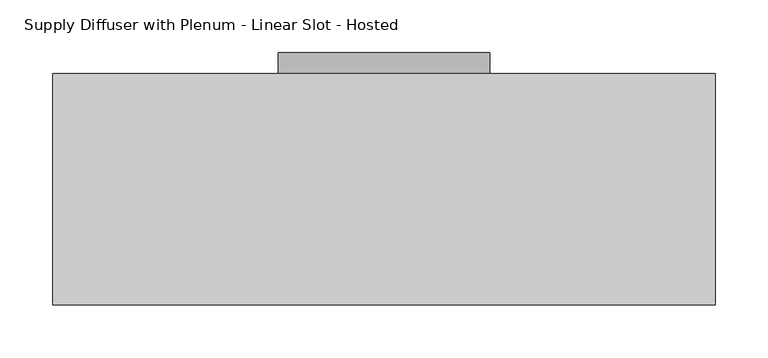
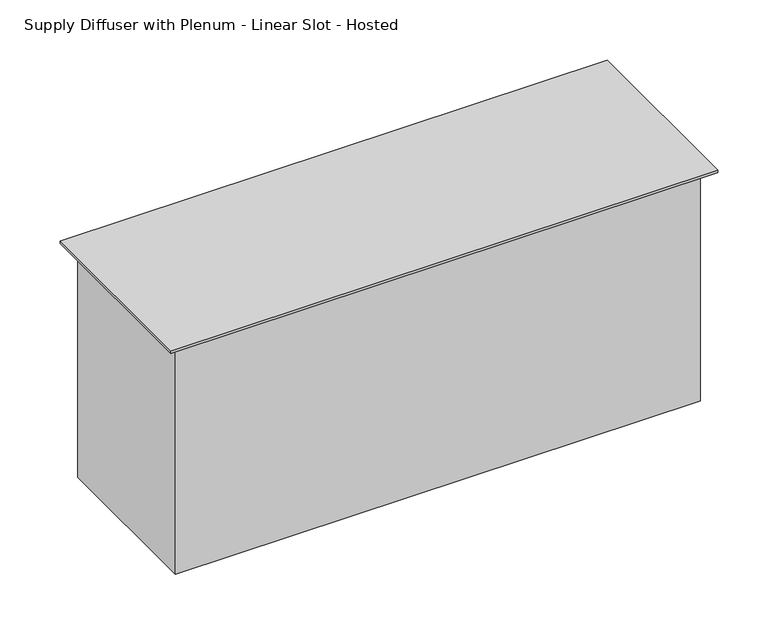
"""IFC4 building model written with IfcOpenShell, lengths in millimetres: air terminal geometry."""

import ifcopenshell
import ifcopenshell.guid

model = None  # the IFC model being written
_history = None  # IfcOwnerHistory: only IFC2X3 demands one
_inside = {}  # id of a spatial element -> (the spatial element, [elements in it])
_under = {}  # id of a project, library or spatial element -> (it, [spatial elements below it])
_declared = {}  # id of a project -> (the project, [libraries it declares])
_typed = {}  # id of a type object -> (the type object, [elements of that type])
_made_of = {}  # id of a material, layer set ... -> (it, [elements and type objects made of it])


def new_model(schema):
    """Start an empty IFC model of exactly this schema.

    Asked for "IFC4X3", IfcOpenShell would pick the latest addendum, in which some entities
    have other attributes; the version numbers below select the first issue.
    IFC2X3 requires an IfcOwnerHistory on every rooted entity: one is made here for all.
    """
    global model, _history
    if schema == "IFC4X3":
        model = ifcopenshell.file(schema_version=(4, 3, 0, 0))
    else:
        model = ifcopenshell.file(schema=schema)
    _inside.clear()
    _under.clear()
    _declared.clear()
    _typed.clear()
    _made_of.clear()
    _history = None
    if model.schema == "IFC2X3":
        org = make("IfcOrganization", Name="unknown")
        user = make(
            "IfcPersonAndOrganization",
            ThePerson=make("IfcPerson", FamilyName="unknown"),
            TheOrganization=org,
        )
        app = make(
            "IfcApplication",
            ApplicationDeveloper=org,
            Version="unknown",
            ApplicationFullName="unknown",
            ApplicationIdentifier="unknown",
        )
        _history = make(
            "IfcOwnerHistory",
            OwningUser=user,
            OwningApplication=app,
            ChangeAction="ADDED",
            CreationDate=0,
        )
    return model


def make(cls, **values):
    """One entity of the class cls with the attributes given. An attribute that is None is left unset."""
    return model.create_entity(
        cls, **{name: value for name, value in values.items() if value is not None}
    )


def rooted(cls, **values):
    """An entity with a GlobalId (a new one), such as an element, a storey or a relation."""
    return make(cls, GlobalId=ifcopenshell.guid.new(), OwnerHistory=_history, **values)


def si_unit(unit_type, name, prefix=None):
    """IfcSIUnit, for example si_unit("LENGTHUNIT", "METRE", prefix="MILLI")."""
    return make("IfcSIUnit", UnitType=unit_type, Prefix=prefix, Name=name)


def assignment(units):
    """IfcUnitAssignment: the units of a project."""
    return None if units is None else make("IfcUnitAssignment", Units=units)


def point(xyz):
    """IfcCartesianPoint."""
    return None if xyz is None else make("IfcCartesianPoint", Coordinates=xyz)


def direction(xyz):
    """IfcDirection."""
    return None if xyz is None else make("IfcDirection", DirectionRatios=xyz)


def frame(location, z_axis=None, x_axis=None):
    """IfcAxis2Placement3D, a coordinate frame: its origin and axes. An axis left out is left unset."""
    return make(
        "IfcAxis2Placement3D",
        Location=point(location),
        Axis=direction(z_axis),
        RefDirection=direction(x_axis),
    )


def frame_2d(location, x_axis=None):
    """IfcAxis2Placement2D, a coordinate frame in the plane: its origin and x axis."""
    return make(
        "IfcAxis2Placement2D", Location=point(location), RefDirection=direction(x_axis)
    )


def origin():
    """The frame at (0, 0, 0) with its axes left unset."""
    return frame((0.0, 0.0, 0.0))


def origin_with_axes():
    """The frame at (0, 0, 0) with the z axis (0, 0, 1) and the x axis (1, 0, 0) written out."""
    return frame((0.0, 0.0, 0.0), z_axis=(0.0, 0.0, 1.0), x_axis=(1.0, 0.0, 0.0))


def place(relative_to, where):
    """IfcLocalPlacement: puts the frame where relative to a parent placement (None: the world)."""
    return make(
        "IfcLocalPlacement", PlacementRelTo=relative_to, RelativePlacement=where
    )


def context(
    kind, dimensions, precision=None, world=None, true_north=None, identifier=None
):
    """IfcGeometricRepresentationContext, for example the 3D "Model" context."""
    return make(
        "IfcGeometricRepresentationContext",
        ContextIdentifier=identifier,
        ContextType=kind,
        CoordinateSpaceDimension=dimensions,
        Precision=precision,
        WorldCoordinateSystem=world,
        TrueNorth=true_north,
    )


def project(units=None, contexts=None):
    """IfcProject with its units and contexts."""
    return rooted(
        "IfcProject",
        Name="project",
        RepresentationContexts=contexts,
        UnitsInContext=assignment(units),
    )


def spatial(cls, under=None, at=None, **own):
    """A site, building, storey or space (cls), placed at a placement, below another one or the project."""
    s = rooted(cls, ObjectPlacement=at, **own)
    if under is not None:
        _under.setdefault(under.id(), (under, []))[1].append(s)
    return s


def polyline(points):
    """IfcPolyline through the points."""
    return make("IfcPolyline", Points=[point(p) for p in points])


def circle_curve(where, radius):
    """IfcCircle in the frame where."""
    return make("IfcCircle", Position=where, Radius=radius)


def trimmed(basis, trim1, trim2, sense, master):
    """IfcTrimmedCurve: the piece of a basis curve between two trims."""
    return make(
        "IfcTrimmedCurve",
        BasisCurve=basis,
        Trim1=trim1,
        Trim2=trim2,
        SenseAgreement=sense,
        MasterRepresentation=master,
    )


def segment(curve, same_sense, transition):
    """IfcCompositeCurveSegment."""
    return make(
        "IfcCompositeCurveSegment",
        Transition=transition,
        SameSense=same_sense,
        ParentCurve=curve,
    )


def composite_curve(segments, self_intersect=None):
    """IfcCompositeCurve: segments joined end to end."""
    return make("IfcCompositeCurve", Segments=segments, SelfIntersect=self_intersect)


def outline(outer, holes=None, kind="AREA"):
    """IfcArbitraryClosedProfileDef: a profile drawn as a closed curve; with holes, ...WithVoids."""
    if holes is None:
        return make("IfcArbitraryClosedProfileDef", ProfileType=kind, OuterCurve=outer)
    return make(
        "IfcArbitraryProfileDefWithVoids",
        ProfileType=kind,
        OuterCurve=outer,
        InnerCurves=holes,
    )


def extrude(swept, where, along, depth):
    """IfcExtrudedAreaSolid: the profile swept, set in the frame where, extruded along a direction by depth."""
    return make(
        "IfcExtrudedAreaSolid",
        SweptArea=swept,
        Position=where,
        ExtrudedDirection=direction(along),
        Depth=depth,
    )


def shape(context_of_items, identifier, shape_type, items):
    """IfcShapeRepresentation: the items that make up one representation, for example the "Body"."""
    return make(
        "IfcShapeRepresentation",
        ContextOfItems=context_of_items,
        RepresentationIdentifier=identifier,
        RepresentationType=shape_type,
        Items=items,
    )


def source(mapping_origin, context_of_items, identifier, shape_type, items):
    """IfcRepresentationMap: a shape defined once, which mapped items show again and again."""
    return make(
        "IfcRepresentationMap",
        MappingOrigin=mapping_origin,
        MappedRepresentation=shape(context_of_items, identifier, shape_type, items),
    )


def transform(
    local_origin,
    x_axis=None,
    y_axis=None,
    z_axis=None,
    scale=None,
    scale2=None,
    scale3=None,
    uniform=True,
):
    """IfcCartesianTransformationOperator3D, or its non-uniform kind. x_axis, y_axis, z_axis: its Axis1, 2, 3."""
    if uniform:
        return make(
            "IfcCartesianTransformationOperator3D",
            Axis1=direction(x_axis),
            Axis2=direction(y_axis),
            LocalOrigin=point(local_origin),
            Scale=scale,
            Axis3=direction(z_axis),
        )
    return make(
        "IfcCartesianTransformationOperator3DnonUniform",
        Axis1=direction(x_axis),
        Axis2=direction(y_axis),
        LocalOrigin=point(local_origin),
        Scale=scale,
        Axis3=direction(z_axis),
        Scale2=scale2,
        Scale3=scale3,
    )


def mapped(mapping_source, mapping_target):
    """IfcMappedItem: shows the shape of a source again, moved by a transform."""
    return make(
        "IfcMappedItem", MappingSource=mapping_source, MappingTarget=mapping_target
    )


def made_of(thing, what):
    """Note that an element or type object is made of a material, layer set ...; save() writes the relation."""
    if what is not None:
        _made_of.setdefault(what.id(), (what, []))[1].append(thing)
    return thing


def element(
    cls,
    number,
    at=None,
    inside=None,
    cuts=None,
    type_object=None,
    material=None,
    context=None,
    identifier="Body",
    shape_type=None,
    held_by="IfcProductDefinitionShape",
    body=None,
    shapes=None,
    **own,
):
    """One element of the class cls, such as IfcWall. Its Tag is "e" and its number.

    at: its placement. inside: the storey or other place that contains it. cuts: it is an
    opening in that element (IfcRelVoidsElement). A single representation is given by context,
    identifier, shape_type and body (its items); several are given by shapes. held_by: the class
    of the entity that holds the representations. save() writes the other relations.
    """
    e = rooted(cls, Tag="e%d" % number, ObjectPlacement=at, **own)
    if body is not None:
        shapes = [shape(context, identifier, shape_type, body)]
    if shapes is not None:
        e.Representation = make(held_by, Representations=shapes)
    if inside is not None:
        _inside.setdefault(inside.id(), (inside, []))[1].append(e)
    if cuts is not None:
        rooted(
            "IfcRelVoidsElement", RelatingBuildingElement=cuts, RelatedOpeningElement=e
        )
    if type_object is not None:
        _typed.setdefault(type_object.id(), (type_object, []))[1].append(e)
    return made_of(e, material)


def aggregate(whole, parts):
    """IfcRelAggregates: a whole, such as a stair, and the parts it consists of."""
    return rooted("IfcRelAggregates", RelatingObject=whole, RelatedObjects=parts)


def save(model, path):
    """Write the relations noted so far, then the file.

    IfcRelAggregates (storeys below a building ...), IfcRelContainedInSpatialStructure (elements
    in a storey), IfcRelDefinesByType, IfcRelAssociatesMaterial and IfcRelDeclares: one each for
    every whole, place, type object, material and project.
    """
    for whole, parts in _under.values():
        aggregate(whole, parts)
    for where, things in _inside.values():
        rooted(
            "IfcRelContainedInSpatialStructure",
            RelatedElements=things,
            RelatingStructure=where,
        )
    for kind, things in _typed.values():
        rooted("IfcRelDefinesByType", RelatedObjects=things, RelatingType=kind)
    for what, things in _made_of.values():
        rooted("IfcRelAssociatesMaterial", RelatedObjects=things, RelatingMaterial=what)
    for by, libraries in _declared.values():
        rooted("IfcRelDeclares", RelatingContext=by, RelatedDefinitions=libraries)
    model.write(path)


def supply_diffuser_with_plenum_linear_slot_hosted_8e4f2f20(model_context):
    return source(origin(), model_context, "Body", "SweptSolid", [
        extrude(outline(composite_curve([segment(trimmed(circle_curve(frame_2d((-154.4, 0.0)), 100.0), [point((-154.4, -100.0))], [point((-154.4, 100.0))], False, "CARTESIAN"), True, "CONTINUOUS"), segment(trimmed(circle_curve(frame_2d((-154.4, 0.0)), 100.0), [point((-154.4, 100.0))], [point((-154.4, -100.0))], False, "CARTESIAN"), True, "CONTINUOUS")], self_intersect=False)), frame((0.0, 96.9, 0.0), z_axis=(0.0, 1.0, 0.0), x_axis=(0.0, 0.0, 1.0)), (0.0, 0.0, 1.0), 32.0),
        extrude(outline(polyline([(312.5, -109.4), (-312.5, -109.4), (-312.5, 109.4), (312.5, 109.4), (312.5, -109.4)])), origin_with_axes(), (0.0, 0.0, 1.0), 3.175),
        extrude(outline(polyline([(300.0, -96.9), (-300.0, -96.9), (-300.0, 96.9), (300.0, 96.9), (300.0, -96.9)])), frame((0.0, 0.0, -279.4), z_axis=(0.0, 0.0, 1.0), x_axis=(1.0, 0.0, 0.0)), (0.0, 0.0, 1.0), 279.4),
    ])


if __name__ == "__main__":
    model = new_model("IFC4")
    model_context = context("Model", 3, world=origin())
    ifc_project = project(units=[si_unit("LENGTHUNIT", "METRE", prefix="MILLI")], contexts=[model_context])
    site = spatial("IfcSite", under=ifc_project)
    building = spatial("IfcBuilding", under=site)
    placement = place(None, origin())
    supply_diffuser_with_plenum_linear_slot_hosted_shape = supply_diffuser_with_plenum_linear_slot_hosted_8e4f2f20(model_context)
    element("IfcAirTerminal", 1, ObjectType="Supply Diffuser with Plenum - Linear Slot - Hosted : 24\" x 8\"-200 In Inlet  4-Slot", at=placement, inside=building, context=model_context, shape_type="MappedRepresentation", body=[
        mapped(supply_diffuser_with_plenum_linear_slot_hosted_shape, transform((0.0, 0.0, 0.0), x_axis=(1.0, 0.0, 0.0), y_axis=(0.0, 1.0, 0.0), z_axis=(0.0, 0.0, 1.0))),
    ])
    save(model, "model.ifc")
